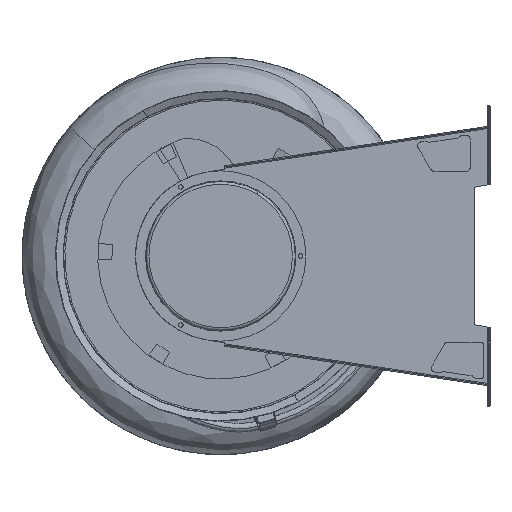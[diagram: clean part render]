
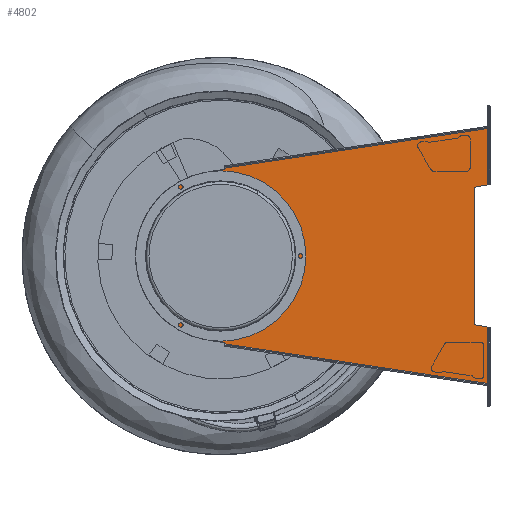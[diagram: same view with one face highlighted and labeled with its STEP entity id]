
A CAD part, left-side view. The second image highlights one B-rep face of the part: STEP entity #4802.
In plain terms, the highlighted planar face has unit normal (-1, 0, 0).
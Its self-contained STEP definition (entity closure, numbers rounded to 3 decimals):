
#3382=DIRECTION('',(0.,0.,1.));
#3383=VECTOR('',#3382,250.);
#3384=CARTESIAN_POINT('',(-1324.,-461.142,-125.));
#3385=LINE('',#3384,#3383);
#3398=CARTESIAN_POINT('',(-1324.,0.,0.));
#3399=DIRECTION('',(-1.,0.,0.));
#3400=DIRECTION('',(0.,1.,0.));
#3401=AXIS2_PLACEMENT_3D('',#3398,#3399,#3400);
#3403=CARTESIAN_POINT('',(-1324.,0.,0.));
#3404=DIRECTION('',(-1.,0.,0.));
#3405=DIRECTION('',(0.,-1.,0.));
#3406=AXIS2_PLACEMENT_3D('',#3403,#3404,#3405);
#3408=DIRECTION('',(0.,-0.989,0.149));
#3409=VECTOR('',#3408,3.105);
#3410=CARTESIAN_POINT('',(-1324.,23.07,153.273));
#3411=LINE('',#3410,#3409);
#3412=DIRECTION('',(0.,-0.989,0.149));
#3413=VECTOR('',#3412,6.895);
#3414=CARTESIAN_POINT('',(-1324.,20.,153.736));
#3415=LINE('',#3414,#3413);
#3416=DIRECTION('',(0.,-0.989,0.149));
#3417=VECTOR('',#3416,20.342);
#3418=CARTESIAN_POINT('',(-1324.,13.182,154.762));
#3419=LINE('',#3418,#3417);
#3420=CARTESIAN_POINT('',(-1324.,-21.767,160.022));
#3421=DIRECTION('',(1.,0.,0.));
#3422=DIRECTION('',(0.,0.989,-0.149));
#3423=AXIS2_PLACEMENT_3D('',#3420,#3421,#3422);
#3425=DIRECTION('',(0.,-0.989,0.149));
#3426=VECTOR('',#3425,3.853);
#3427=CARTESIAN_POINT('',(-1324.,-482.19,231.347));
#3428=LINE('',#3427,#3426);
#3429=DIRECTION('',(0.,0.985,-0.174));
#3430=VECTOR('',#3429,25.242);
#3431=CARTESIAN_POINT('',(-1324.,-486.,129.383));
#3432=LINE('',#3431,#3430);
#3433=DIRECTION('',(0.,0.985,0.174));
#3434=VECTOR('',#3433,25.242);
#3435=CARTESIAN_POINT('',(-1324.,-486.,-129.383));
#3436=LINE('',#3435,#3434);
#3437=DIRECTION('',(0.,0.989,0.149));
#3438=VECTOR('',#3437,3.853);
#3439=CARTESIAN_POINT('',(-1324.,-486.,-231.92));
#3440=LINE('',#3439,#3438);
#3441=CARTESIAN_POINT('',(-1324.,-21.767,-160.022));
#3442=DIRECTION('',(1.,0.,0.));
#3443=DIRECTION('',(0.,1.,0.016));
#3444=AXIS2_PLACEMENT_3D('',#3441,#3442,#3443);
#3446=DIRECTION('',(0.,-0.989,-0.149));
#3447=VECTOR('',#3446,20.342);
#3448=CARTESIAN_POINT('',(-1324.,13.182,-154.762));
#3449=LINE('',#3448,#3447);
#3450=DIRECTION('',(0.,-0.989,-0.149));
#3451=VECTOR('',#3450,6.895);
#3452=CARTESIAN_POINT('',(-1324.,20.,-153.736));
#3453=LINE('',#3452,#3451);
#3454=DIRECTION('',(0.,0.989,0.149));
#3455=VECTOR('',#3454,3.105);
#3456=CARTESIAN_POINT('',(-1324.,20.,-153.736));
#3457=LINE('',#3456,#3455);
#3467=CARTESIAN_POINT('',(-1324.,0.,0.));
#3468=DIRECTION('',(-1.,0.,0.));
#3469=DIRECTION('',(0.,0.149,0.989));
#3470=AXIS2_PLACEMENT_3D('',#3467,#3468,#3469);
#3488=CARTESIAN_POINT('',(-1324.,-6.769,159.787));
#3511=DIRECTION('',(0.,-0.989,0.149));
#3512=VECTOR('',#3511,480.777);
#3513=CARTESIAN_POINT('',(-1324.,-6.769,159.787));
#3514=LINE('',#3513,#3512);
#3656=DIRECTION('',(0.,0.,-1.));
#3657=VECTOR('',#3656,102.537);
#3658=CARTESIAN_POINT('',(-1324.,-486.,231.92));
#3659=LINE('',#3658,#3657);
#4070=DIRECTION('',(0.,0.,1.));
#4071=VECTOR('',#4070,102.537);
#4072=CARTESIAN_POINT('',(-1324.,-486.,-231.92));
#4073=LINE('',#4072,#4071);
#4249=CARTESIAN_POINT('',(-1324.,-6.769,-159.787));
#4251=DIRECTION('',(0.,-0.989,-0.149));
#4252=VECTOR('',#4251,480.777);
#4253=CARTESIAN_POINT('',(-1324.,-6.769,-159.787));
#4254=LINE('',#4253,#4252);
#4404=CARTESIAN_POINT('',(-1324.,-33.,0.));
#4405=CARTESIAN_POINT('',(-1324.,33.,0.));
#4406=VERTEX_POINT('',#4404);
#4407=VERTEX_POINT('',#4405);
#4409=CARTESIAN_POINT('',(-1324.,23.07,-153.273));
#4411=VERTEX_POINT('',#4409);
#4428=CARTESIAN_POINT('',(-1324.,-486.,-231.92));
#4429=CARTESIAN_POINT('',(-1324.,-482.19,-231.347));
#4430=VERTEX_POINT('',#4428);
#4431=VERTEX_POINT('',#4429);
#4482=CARTESIAN_POINT('',(-1324.,-486.,-129.383));
#4483=VERTEX_POINT('',#4482);
#4485=CARTESIAN_POINT('',(-1324.,23.07,153.273));
#4487=VERTEX_POINT('',#4485);
#4504=CARTESIAN_POINT('',(-1324.,-486.,231.92));
#4505=CARTESIAN_POINT('',(-1324.,-482.19,231.347));
#4506=VERTEX_POINT('',#4504);
#4507=VERTEX_POINT('',#4505);
#4545=CARTESIAN_POINT('',(-1324.,-486.,129.383));
#4546=VERTEX_POINT('',#4545);
#4551=CARTESIAN_POINT('',(-1324.,-461.142,-125.));
#4552=VERTEX_POINT('',#4551);
#4557=CARTESIAN_POINT('',(-1324.,-461.142,125.));
#4558=VERTEX_POINT('',#4557);
#4567=CARTESIAN_POINT('',(-1324.,20.,-153.736));
#4568=CARTESIAN_POINT('',(-1324.,13.182,-154.762));
#4569=VERTEX_POINT('',#4567);
#4570=VERTEX_POINT('',#4568);
#4576=VERTEX_POINT('',#4249);
#4585=CARTESIAN_POINT('',(-1324.,20.,153.736));
#4586=CARTESIAN_POINT('',(-1324.,13.182,154.762));
#4587=VERTEX_POINT('',#4585);
#4588=VERTEX_POINT('',#4586);
#4594=VERTEX_POINT('',#3488);
#4613=CARTESIAN_POINT('',(-1324.,-6.934,-157.79));
#4614=VERTEX_POINT('',#4613);
#4617=CARTESIAN_POINT('',(-1324.,-6.934,157.79));
#4618=VERTEX_POINT('',#4617);
#4754=CARTESIAN_POINT('',(-1324.,0.,0.));
#4755=DIRECTION('',(-1.,0.,0.));
#4756=DIRECTION('',(0.,0.,1.));
#4757=AXIS2_PLACEMENT_3D('',#4754,#4755,#4756);
#4758=PLANE('',#4757);
#4760=ORIENTED_EDGE('',*,*,#4759,.F.);
#4762=ORIENTED_EDGE('',*,*,#4761,.T.);
#4764=ORIENTED_EDGE('',*,*,#4763,.T.);
#4766=ORIENTED_EDGE('',*,*,#4765,.T.);
#4768=ORIENTED_EDGE('',*,*,#4767,.T.);
#4770=ORIENTED_EDGE('',*,*,#4769,.T.);
#4772=ORIENTED_EDGE('',*,*,#4771,.T.);
#4774=ORIENTED_EDGE('',*,*,#4773,.T.);
#4776=ORIENTED_EDGE('',*,*,#4775,.T.);
#4777=ORIENTED_EDGE('',*,*,#4737,.F.);
#4779=ORIENTED_EDGE('',*,*,#4778,.F.);
#4781=ORIENTED_EDGE('',*,*,#4780,.F.);
#4783=ORIENTED_EDGE('',*,*,#4782,.T.);
#4785=ORIENTED_EDGE('',*,*,#4784,.F.);
#4787=ORIENTED_EDGE('',*,*,#4786,.T.);
#4789=ORIENTED_EDGE('',*,*,#4788,.F.);
#4791=ORIENTED_EDGE('',*,*,#4790,.F.);
#4793=ORIENTED_EDGE('',*,*,#4792,.T.);
#4794=EDGE_LOOP('',(#4760,#4762,#4764,#4766,#4768,#4770,#4772,#4774,#4776,#4777,
#4779,#4781,#4783,#4785,#4787,#4789,#4791,#4793));
#4795=FACE_OUTER_BOUND('',#4794,.F.);
#4797=ORIENTED_EDGE('',*,*,#4796,.T.);
#4799=ORIENTED_EDGE('',*,*,#4798,.T.);
#4800=EDGE_LOOP('',(#4797,#4799));
#4801=FACE_BOUND('',#4800,.F.);
#3402=CIRCLE('',#3401,33.);
#3407=CIRCLE('',#3406,33.);
#3424=CIRCLE('',#3423,15.);
#3445=CIRCLE('',#3444,15.);
#3471=CIRCLE('',#3470,155.);
#4737=EDGE_CURVE('',#4552,#4558,#3385,.T.);
#4759=EDGE_CURVE('',#4487,#4411,#3471,.T.);
#4761=EDGE_CURVE('',#4487,#4587,#3411,.T.);
#4763=EDGE_CURVE('',#4587,#4588,#3415,.T.);
#4765=EDGE_CURVE('',#4588,#4618,#3419,.T.);
#4767=EDGE_CURVE('',#4618,#4594,#3424,.T.);
#4769=EDGE_CURVE('',#4594,#4507,#3514,.T.);
#4771=EDGE_CURVE('',#4507,#4506,#3428,.T.);
#4773=EDGE_CURVE('',#4506,#4546,#3659,.T.);
#4775=EDGE_CURVE('',#4546,#4558,#3432,.T.);
#4778=EDGE_CURVE('',#4483,#4552,#3436,.T.);
#4780=EDGE_CURVE('',#4430,#4483,#4073,.T.);
#4782=EDGE_CURVE('',#4430,#4431,#3440,.T.);
#4784=EDGE_CURVE('',#4576,#4431,#4254,.T.);
#4786=EDGE_CURVE('',#4576,#4614,#3445,.T.);
#4788=EDGE_CURVE('',#4570,#4614,#3449,.T.);
#4790=EDGE_CURVE('',#4569,#4570,#3453,.T.);
#4792=EDGE_CURVE('',#4569,#4411,#3457,.T.);
#4796=EDGE_CURVE('',#4407,#4406,#3402,.T.);
#4798=EDGE_CURVE('',#4406,#4407,#3407,.T.);
#4802=ADVANCED_FACE('',(#4795,#4801),#4758,.T.);
